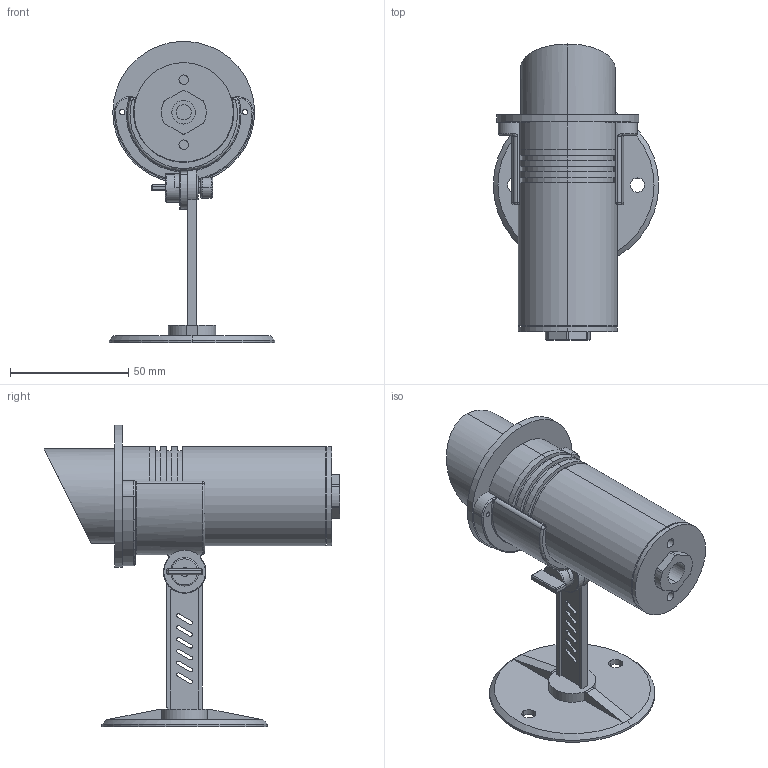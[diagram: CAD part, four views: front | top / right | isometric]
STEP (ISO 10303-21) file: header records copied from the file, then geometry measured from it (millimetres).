
FILE_DESCRIPTION((''),'2;1');
FILE_NAME('5A__ASM_ASM','2024-03-21T',('Administrator'),(''),'CREO PARAMETRIC BY PTC INC, 2014500','CREO PARAMETRIC BY PTC INC, 2014500','');
FILE_SCHEMA(('CONFIG_CONTROL_DESIGN'));
Length unit declared in the file: millimetre
Products named in the file (26): 5A-FDGR__1_2; GFD____1_3; KJHK-45____1_2; FDGRDGREG_ASM_1_ASM_3_ASM; M4-12-BEI-TOU-LS_1_1; F8-DP_1_1; DIZUO_ASM; 4A-82_12; HOUGAI-0; 4A-10_12; LUOMU; 0-RING; 4A-LV-JI-BAN; BOLIDIAN; FANGSHUIQUAN; BOLI-0; ASM0003_ASM; TOUJING; 2W-X1; M3-6; MUZUHE; MSBR-4; 2C-2V_28_1_1; 4A-NEW_ASM_12_ASM; 5A__ASM_4_ASM; 5A__ASM_ASM
Assembly tree (26 placements, depth 5):
  5A__ASM_ASM
    5A__ASM_4_ASM
      DIZUO_ASM
        FDGRDGREG_ASM_1_ASM_3_ASM
          5A-FDGR__1_2
          GFD____1_3
          KJHK-45____1_2
        M4-12-BEI-TOU-LS_1_1
        F8-DP_1_1
      4A-NEW_ASM_12_ASM
        4A-82_12
        HOUGAI-0
        4A-10_12
        LUOMU
        0-RING
        4A-LV-JI-BAN
        BOLIDIAN
        FANGSHUIQUAN
        ASM0003_ASM
          BOLI-0
        TOUJING
        2W-X1
        M3-6  x2
        MUZUHE
        MSBR-4
        2C-2V_28_1_1
Bounding box: 70 x 125.2 x 127.5 mm (x, y, z)
Volume: 110469.2 mm3; surface area: 87932.9 mm2
Topology: 21 solids, 21 shells, 622 faces, 1676 edges, 1119 vertices
Faces by surface type: plane 264, cylinder 236, cone 52, torus 39, bspline 25, sphere 6
Entity records: 23884 total; most frequent: CARTESIAN_POINT 7883, DIRECTION 3428, ORIENTED_EDGE 3208, EDGE_CURVE 1604, AXIS2_PLACEMENT_3D 1373, VERTEX_POINT 1077, CIRCLE 726, EDGE_LOOP 699
